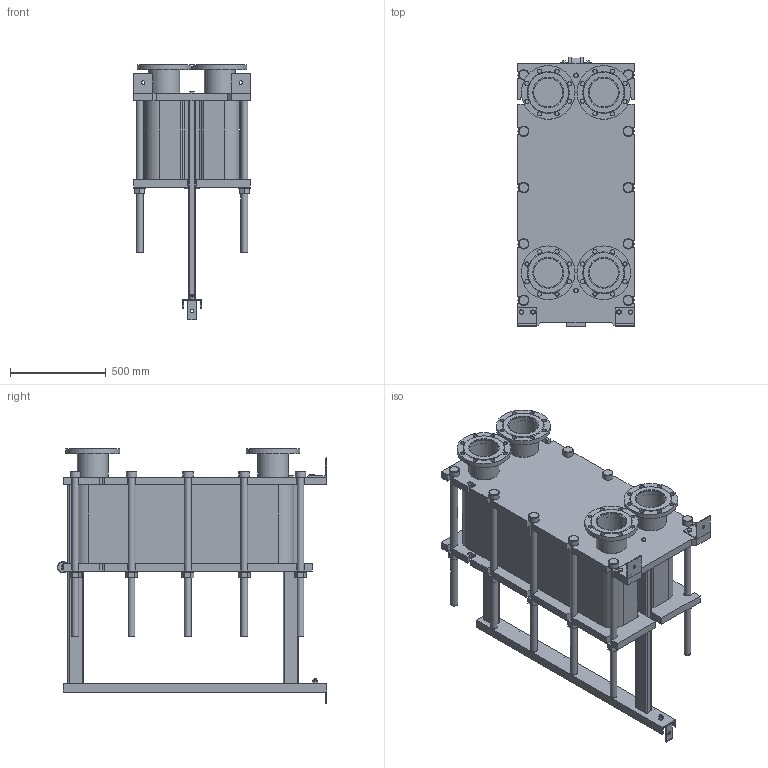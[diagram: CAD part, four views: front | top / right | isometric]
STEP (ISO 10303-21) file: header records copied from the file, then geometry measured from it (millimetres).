
FILE_DESCRIPTION(/* description */ (''),/* implementation_level */ '2;1');
FILE_NAME(/* name */ 'C:\Users\zhuro\Desktop\ENCO\TO\ЭН-041\ЭН-0,5-041-119-1.stp',/* time_stamp */ '2022-06-06T10:59:32+03:00',/* author */ ('zhuro'),/* organization */ (''),/* preprocessor_version */ 'ST-DEVELOPER v18.1',/* originating_system */ 'Autodesk Inventor 2022',/* authorisation */ '');
FILE_SCHEMA (('AUTOMOTIVE_DESIGN { 1 0 10303 214 3 1 1 }'));
Length unit declared in the file: millimetre
Products named in the file (1): ЭН-0,5-041-119-1
Bounding box: 610 x 1406.5 x 1332.5 mm (x, y, z)
Volume: 312716955.3 mm3; surface area: 9443445.5 mm2
Topology: 52 solids, 52 shells, 711 faces, 1696 edges, 1094 vertices
Faces by surface type: plane 487, cylinder 177, cone 41, torus 6
Full cylindrical faces by diameter (mm): 8 x4, 10 x2, 16 x8, 18 x3, 22 x32, 36 x24, 50 x1, 54 x10, 60 x12, 151 x4, 161 x8, 280 x4
Entity records: 22667 total; most frequent: CARTESIAN_POINT 5230, DIRECTION 3644, ORIENTED_EDGE 3392, EDGE_CURVE 1696, AXIS2_PLACEMENT_3D 1272, LINE 1100, VECTOR 1100, VERTEX_POINT 1094
